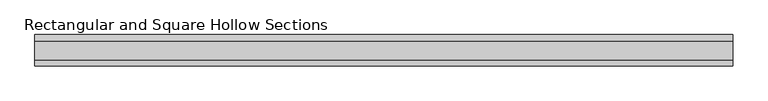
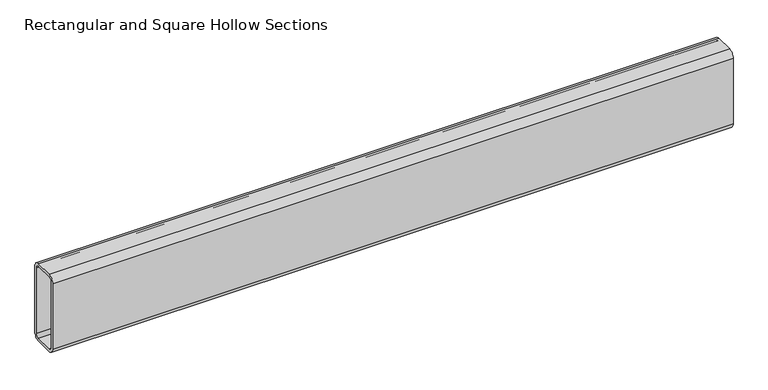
"""IFC4 building model written with IfcOpenShell, lengths in millimetres: beam geometry, Rectangular and Square Hollow Sections : TREC160x60x6."""

from ifc_helpers import new_model, si_unit, point, frame, frame_2d, origin, place, context, project, spatial, polyline, circle_curve, trimmed, segment, composite_curve, outline, extrude, source, transform, mapped, element, save


def rectangular_and_square_hollow_sections_cefccb36(model_context):
    return source(origin(), model_context, "Body", "SweptSolid", [
        extrude(outline(composite_curve([segment(polyline([(30.0, 68.0), (30.0, -68.0)]), True, "CONTINUOUS"), segment(trimmed(circle_curve(frame_2d((18.0, -68.0)), 12.0), [point((30.0, -68.0))], [point((18.0, -80.0))], False, "CARTESIAN"), True, "CONTINUOUS"), segment(polyline([(18.0, -80.0), (-18.0, -80.0)]), True, "CONTINUOUS"), segment(trimmed(circle_curve(frame_2d((-18.0, -68.0)), 12.0), [point((-18.0, -80.0))], [point((-30.0, -68.0))], False, "CARTESIAN"), True, "CONTINUOUS"), segment(polyline([(-30.0, -68.0), (-30.0, 68.0)]), True, "CONTINUOUS"), segment(trimmed(circle_curve(frame_2d((-18.0, 68.0)), 12.0), [point((-30.0, 68.0))], [point((-18.0, 80.0))], False, "CARTESIAN"), True, "CONTINUOUS"), segment(polyline([(-18.0, 80.0), (18.0, 80.0)]), True, "CONTINUOUS"), segment(trimmed(circle_curve(frame_2d((18.0, 68.0)), 12.0), [point((18.0, 80.0))], [point((30.0, 68.0))], False, "CARTESIAN"), True, "CONTINUOUS")], self_intersect=False), holes=[composite_curve([segment(trimmed(circle_curve(frame_2d((-18.0, 68.0)), 6.0), [point((-18.0, 74.0))], [point((-24.0, 68.0))], True, "CARTESIAN"), True, "CONTINUOUS"), segment(polyline([(-24.0, 68.0), (-24.0, -68.0)]), True, "CONTINUOUS"), segment(trimmed(circle_curve(frame_2d((-18.0, -68.0)), 6.0), [point((-24.0, -68.0))], [point((-18.0, -74.0))], True, "CARTESIAN"), True, "CONTINUOUS"), segment(polyline([(-18.0, -74.0), (18.0, -74.0)]), True, "CONTINUOUS"), segment(trimmed(circle_curve(frame_2d((18.0, -68.0)), 6.0), [point((18.0, -74.0))], [point((24.0, -68.0))], True, "CARTESIAN"), True, "CONTINUOUS"), segment(polyline([(24.0, -68.0), (24.0, 68.0)]), True, "CONTINUOUS"), segment(trimmed(circle_curve(frame_2d((18.0, 68.0)), 6.0), [point((24.0, 68.0))], [point((18.0, 74.0))], True, "CARTESIAN"), True, "CONTINUOUS"), segment(polyline([(18.0, 74.0), (-18.0, 74.0)]), True, "CONTINUOUS")], self_intersect=False)]), frame((-585.0, 0.0, 0.0), z_axis=(1.0, 0.0, 0.0), x_axis=(0.0, 1.0, 0.0)), (0.0, 0.0, 1.0), 1334.0),
    ])


if __name__ == "__main__":
    model = new_model("IFC4")
    model_context = context("Model", 3, world=origin())
    ifc_project = project(units=[si_unit("LENGTHUNIT", "METRE", prefix="MILLI")], contexts=[model_context])
    site = spatial("IfcSite", under=ifc_project)
    building = spatial("IfcBuilding", under=site)
    placement = place(None, origin())
    rectangular_and_square_hollow_sections_shape = rectangular_and_square_hollow_sections_cefccb36(model_context)
    element("IfcBeam", 1, ObjectType="Rectangular and Square Hollow Sections : TREC160x60x6", at=placement, inside=building, context=model_context, shape_type="MappedRepresentation", body=[
        mapped(rectangular_and_square_hollow_sections_shape, transform((0.0, 0.0, 0.0), x_axis=(1.0, 0.0, 0.0), y_axis=(0.0, 1.0, 0.0), z_axis=(0.0, 0.0, 1.0))),
    ])
    save(model, "model.ifc")
